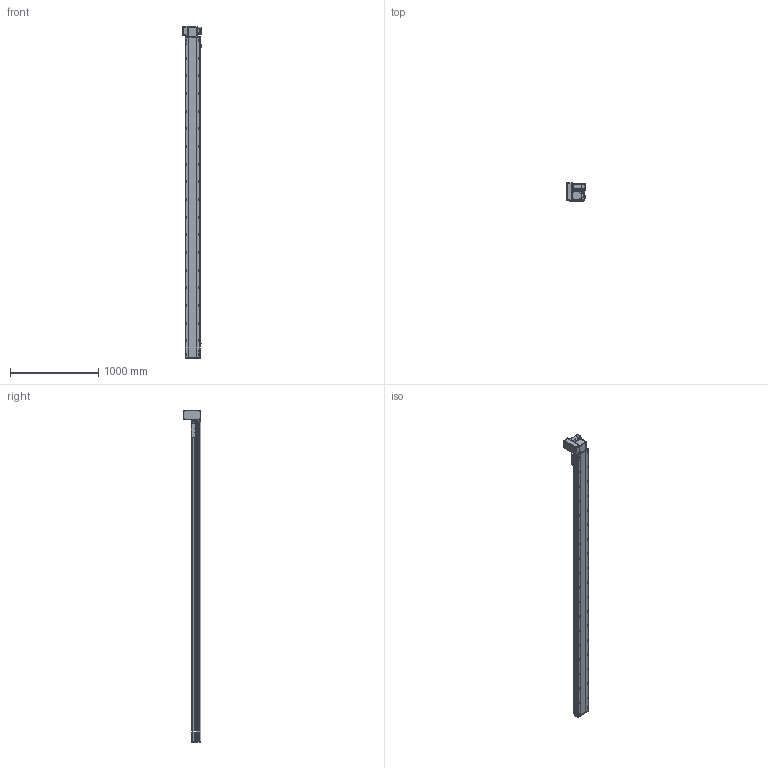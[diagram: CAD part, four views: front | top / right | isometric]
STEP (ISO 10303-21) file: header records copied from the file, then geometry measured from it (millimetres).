
FILE_DESCRIPTION (( 'STEP AP214' ), '1' );
FILE_NAME ('RTB17S-XX-3350-LW-M75-C4.STEP', '2025-12-12T01:22:06', ( '' ), ( '' ), 'SwSTEP 2.0', 'SolidWorks 2018', '' );
FILE_SCHEMA (( 'AUTOMOTIVE_DESIGN' ));
Length unit declared in the file: millimetre
Products named in the file (15): RTB17S-XX-3350-LW-M75-C4; RTB22S-GY-018P^RTB17S-LW-々湍釱蚾饜-750W_RTB17S-XX-XX-LW-M75-C4; RTB17S-L-014-T20-P75--々湍釱^RTB17S-LW-々湍釱蚾饜-750W_RTB17S-XX-XX-LW-M75-C4; RTB17S-L-007奻裔^RTB17S-XX-XX-LW-M75-C4; RTB17-R-011菁釱^RTB17S-XX-XX-LW-M75-C4; 750W萇儂^RTB17S-XX-XX-LW-M75-C4; RTB22S-GY-005P^RTB17S-LW-々湍釱蚾饜-750W_RTB17S-XX-XX-LW-M75-C4; RTB22S-GY-008-M75--萇儂啣^RTB17S-LW-々湍釱蚾饜-750W_RTB17S-XX-XX-LW-M75-C4; RTB17S-賑釱^RTB17S-XX-XX-LW-M75-C4; EE672^RTB17S-XX-XX-LW-M75-C4; RTB17S-L-004-賑釱^RTB17S-賑釱_RTB17S-XX-XX-LW-M75-C4; RTB17S-LW-々湍釱蚾饜-750W^RTB17S-XX-XX-LW-M75-C4; RTH13-BL-012覜茼え俋离^RTB17S-賑釱_RTB17S-XX-XX-LW-M75-C4; RTB17S-L-001-耜醱啣^RTB17S-XX-XX-LW-M75-C4; RTB22S-GY-017P^RTB17S-LW-々湍釱蚾饜-750W_RTB17S-XX-XX-LW-M75-C4
Assembly tree (17 placements, depth 3):
  RTB17S-XX-3350-LW-M75-C4
    RTB17-R-011菁釱^RTB17S-XX-XX-LW-M75-C4
    EE672^RTB17S-XX-XX-LW-M75-C4  x3
    RTB17S-L-001-耜醱啣^RTB17S-XX-XX-LW-M75-C4
    RTB17S-賑釱^RTB17S-XX-XX-LW-M75-C4
      RTB17S-L-004-賑釱^RTB17S-賑釱_RTB17S-XX-XX-LW-M75-C4
      RTH13-BL-012覜茼え俋离^RTB17S-賑釱_RTB17S-XX-XX-LW-M75-C4
    RTB17S-L-007奻裔^RTB17S-XX-XX-LW-M75-C4
    750W萇儂^RTB17S-XX-XX-LW-M75-C4
    RTB17S-LW-々湍釱蚾饜-750W^RTB17S-XX-XX-LW-M75-C4
      RTB17S-L-014-T20-P75--々湍釱^RTB17S-LW-々湍釱蚾饜-750W_RTB17S-XX-XX-LW-M75-C4
      RTB22S-GY-005P^RTB17S-LW-々湍釱蚾饜-750W_RTB17S-XX-XX-LW-M75-C4
      RTB22S-GY-017P^RTB17S-LW-々湍釱蚾饜-750W_RTB17S-XX-XX-LW-M75-C4  x2
      RTB22S-GY-008-M75--萇儂啣^RTB17S-LW-々湍釱蚾饜-750W_RTB17S-XX-XX-LW-M75-C4
      RTB22S-GY-018P^RTB17S-LW-々湍釱蚾饜-750W_RTB17S-XX-XX-LW-M75-C4
Bounding box: 210.4 x 201.5 x 3757.5 mm (x, y, z)
Volume: 26891362.4 mm3; surface area: 4957492.7 mm2
Topology: 17 solids, 17 shells, 2281 faces, 6430 edges, 4166 vertices
Faces by surface type: plane 994, cylinder 871, bspline 294, cone 110, sphere 8, torus 4
Entity records: 67318 total; most frequent: CARTESIAN_POINT 20094, ORIENTED_EDGE 9704, DIRECTION 8942, EDGE_CURVE 4852, AXIS2_PLACEMENT_3D 3186, VERTEX_POINT 3170, LINE 2570, VECTOR 2570
